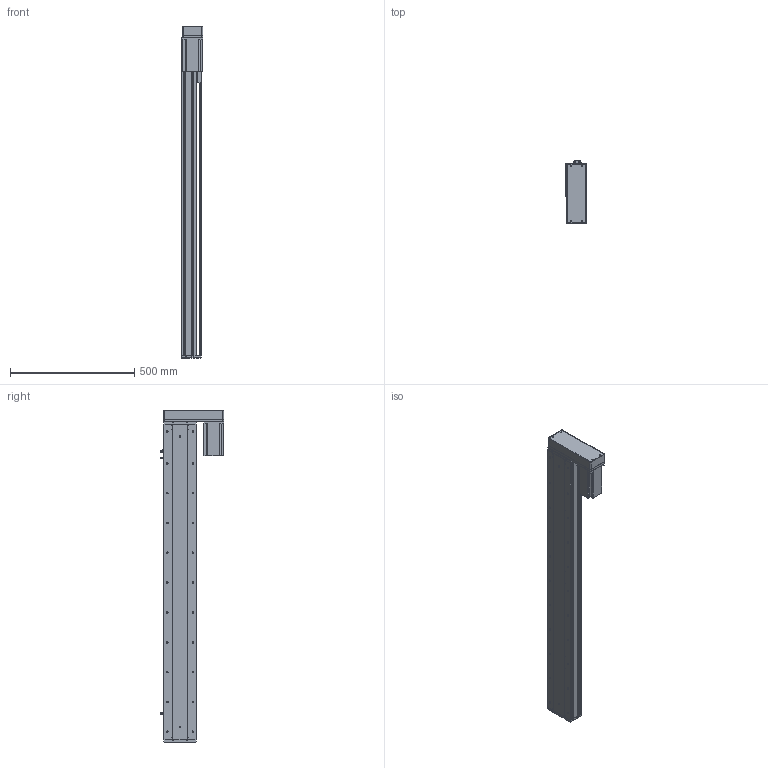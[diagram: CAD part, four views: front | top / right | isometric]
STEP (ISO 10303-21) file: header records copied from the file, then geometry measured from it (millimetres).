
FILE_DESCRIPTION (( 'STEP AP214' ), '1' );
FILE_NAME ('KSD130-P2010-S1050-MR-CM.STEP', '2019-09-17T08:52:06', ( '微软用户' ), ( '微软中国' ), 'SwSTEP 2.0', 'SolidWorks 2014', '' );
FILE_SCHEMA (( 'AUTOMOTIVE_DESIGN' ));
Length unit declared in the file: millimetre
Products named in the file (11): 130宽模组保护罩左右折; 台达ECMA－C20807AS伺服电机; 130宽模组马达安装板连板左右折丝杆; U倰嫖萇EEㄜSX672; 覜茼え100遵圉猾敕; 130宽盖板半封闭丝杠-1050行程; 130宽滚珠丝杆安装板半封闭-20丝杠; 130宽马达安装板半封闭; 130遵傷裔圉猾敕; 130宽底板半封闭丝杠-1050行程; KSD130-P2010-S1050-MR-CM
Assembly tree (12 placements, depth 2):
  KSD130-P2010-S1050-MR-CM
    130宽底板半封闭丝杠-1050行程
    130遵傷裔圉猾敕
    130宽马达安装板半封闭
    130宽滚珠丝杆安装板半封闭-20丝杠
    130宽盖板半封闭丝杠-1050行程
    覜茼え100遵圉猾敕
    U倰嫖萇EEㄜSX672  x3
    130宽模组马达安装板连板左右折丝杆
    台达ECMA－C20807AS伺服电机
    130宽模组保护罩左右折
Bounding box: 85 x 253.7 x 1335.5 mm (x, y, z)
Volume: 4897659.9 mm3; surface area: 1369619.1 mm2
Topology: 13 solids, 13 shells, 1436 faces, 4081 edges, 2593 vertices
Faces by surface type: cylinder 699, plane 570, cone 167
Entity records: 47999 total; most frequent: CARTESIAN_POINT 9284, DIRECTION 6995, ORIENTED_EDGE 6794, EDGE_CURVE 3397, AXIS2_PLACEMENT_3D 2548, VERTEX_POINT 2217, VECTOR 1899, LINE 1899
